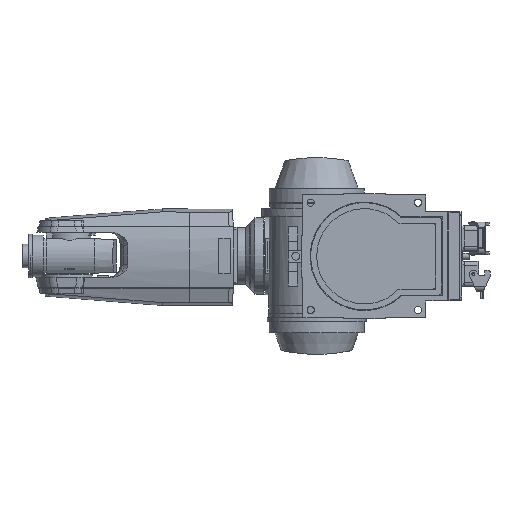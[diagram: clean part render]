
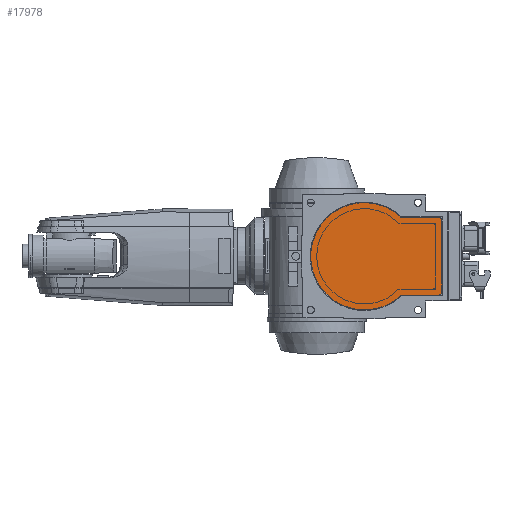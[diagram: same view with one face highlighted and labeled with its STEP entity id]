
A CAD part, front view. The second image highlights one B-rep face of the part: STEP entity #17978.
In plain terms, the highlighted planar face has unit normal (0, -1, 0).
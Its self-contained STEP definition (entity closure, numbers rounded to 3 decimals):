
#6181=DIRECTION('',(1.,0.,0.));
#6182=VECTOR('',#6181,60.774);
#6183=CARTESIAN_POINT('',(64.226,4.8,-65.));
#6184=LINE('',#6183,#6182);
#6193=DIRECTION('',(0.,0.,1.));
#6194=VECTOR('',#6193,120.);
#6195=CARTESIAN_POINT('',(130.,4.8,-60.));
#6196=LINE('',#6195,#6194);
#6201=CARTESIAN_POINT('',(0.,4.8,0.));
#6202=DIRECTION('',(0.,1.,0.));
#6203=DIRECTION('',(0.676,0.,-0.737));
#6204=AXIS2_PLACEMENT_3D('',#6201,#6202,#6203);
#6206=CARTESIAN_POINT('',(64.226,4.8,70.));
#6207=DIRECTION('',(0.,-1.,0.));
#6208=DIRECTION('',(-0.676,0.,-0.737));
#6209=AXIS2_PLACEMENT_3D('',#6206,#6207,#6208);
#6211=DIRECTION('',(1.,0.,0.));
#6212=VECTOR('',#6211,60.774);
#6213=CARTESIAN_POINT('',(64.226,4.8,65.));
#6214=LINE('',#6213,#6212);
#6215=CARTESIAN_POINT('',(125.,4.8,60.));
#6216=DIRECTION('',(0.,1.,0.));
#6217=DIRECTION('',(0.,0.,1.));
#6218=AXIS2_PLACEMENT_3D('',#6215,#6216,#6217);
#6220=CARTESIAN_POINT('',(125.,4.8,-60.));
#6221=DIRECTION('',(0.,1.,0.));
#6222=DIRECTION('',(1.,0.,0.));
#6223=AXIS2_PLACEMENT_3D('',#6220,#6221,#6222);
#6225=CARTESIAN_POINT('',(64.226,4.8,-70.));
#6226=DIRECTION('',(0.,-1.,0.));
#6227=DIRECTION('',(0.,0.,1.));
#6228=AXIS2_PLACEMENT_3D('',#6225,#6226,#6227);
#7115=CARTESIAN_POINT('',(60.846,4.8,66.316));
#7116=CARTESIAN_POINT('',(64.226,4.8,65.));
#7117=VERTEX_POINT('',#7115);
#7118=VERTEX_POINT('',#7116);
#7119=CARTESIAN_POINT('',(60.846,4.8,-66.316));
#7120=VERTEX_POINT('',#7119);
#7121=CARTESIAN_POINT('',(64.226,4.8,-65.));
#7122=VERTEX_POINT('',#7121);
#7123=CARTESIAN_POINT('',(125.,4.8,65.));
#7124=VERTEX_POINT('',#7123);
#7125=CARTESIAN_POINT('',(130.,4.8,60.));
#7126=VERTEX_POINT('',#7125);
#7127=CARTESIAN_POINT('',(130.,4.8,-60.));
#7128=VERTEX_POINT('',#7127);
#7129=CARTESIAN_POINT('',(125.,4.8,-65.));
#7130=VERTEX_POINT('',#7129);
#17963=CARTESIAN_POINT('',(20.,4.8,0.));
#17964=DIRECTION('',(0.,1.,0.));
#17965=DIRECTION('',(1.,0.,0.));
#17966=AXIS2_PLACEMENT_3D('',#17963,#17964,#17965);
#17967=PLANE('',#17966);
#17968=ORIENTED_EDGE('',*,*,#17889,.T.);
#17969=ORIENTED_EDGE('',*,*,#17875,.T.);
#17970=ORIENTED_EDGE('',*,*,#17861,.T.);
#17971=ORIENTED_EDGE('',*,*,#17958,.T.);
#17972=ORIENTED_EDGE('',*,*,#17945,.F.);
#17973=ORIENTED_EDGE('',*,*,#17931,.T.);
#17974=ORIENTED_EDGE('',*,*,#17917,.F.);
#17975=ORIENTED_EDGE('',*,*,#17903,.T.);
#17976=EDGE_LOOP('',(#17968,#17969,#17970,#17971,#17972,#17973,#17974,#17975));
#17977=FACE_OUTER_BOUND('',#17976,.F.);
#6205=CIRCLE('',#6204,90.);
#6210=CIRCLE('',#6209,5.);
#6219=CIRCLE('',#6218,5.);
#6224=CIRCLE('',#6223,5.);
#6229=CIRCLE('',#6228,5.);
#17861=EDGE_CURVE('',#7118,#7124,#6214,.T.);
#17875=EDGE_CURVE('',#7117,#7118,#6210,.T.);
#17889=EDGE_CURVE('',#7120,#7117,#6205,.T.);
#17903=EDGE_CURVE('',#7122,#7120,#6229,.T.);
#17917=EDGE_CURVE('',#7122,#7130,#6184,.T.);
#17931=EDGE_CURVE('',#7128,#7130,#6224,.T.);
#17945=EDGE_CURVE('',#7128,#7126,#6196,.T.);
#17958=EDGE_CURVE('',#7124,#7126,#6219,.T.);
#17978=ADVANCED_FACE('',(#17977),#17967,.F.);
